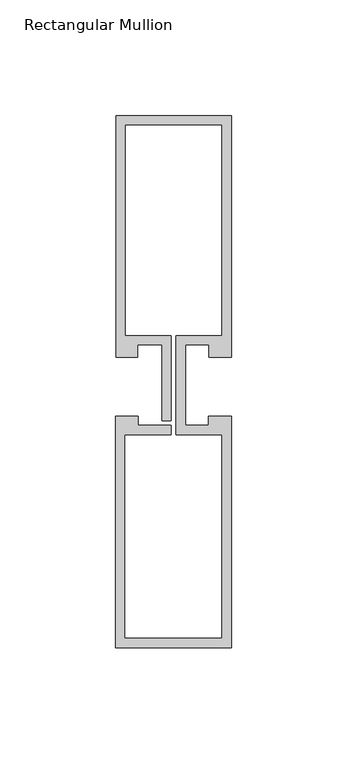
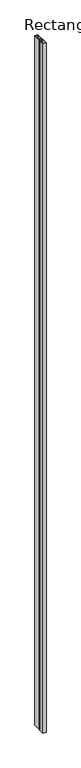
"""IFC4 building model written with IfcOpenShell, lengths in millimetres: member geometry, Rectangular Mullion : Reynaers_CW-50_Transom-Transom_104.5mm_Facecap-02D."""

from ifc_helpers import new_model, si_unit, frame, origin, place, context, project, spatial, polyline, outline, extrude, source, transform, mapped, element, save


def rectangular_mullion_6b0ed9ac(model_context):
    return source(origin(), model_context, "Body", "SweptSolid", [
        extrude(outline(polyline([(25.1995941, -12.7331291), (25.1995941, -112.7331291), (-24.994845, -112.7331291), (-24.994845, -12.7331291), (-15.2996495, -12.7331291), (-15.2996495, -16.7331291), (-0.9004059, -16.7331291), (-0.9004059, -20.7331291), (-20.994845, -20.7331291), (-20.994845, -108.7331291), (21.1995941, -108.7331291), (21.1995941, -20.7331291), (1.2995941, -20.7331291), (1.2995941, 22.1331291), (21.1995941, 22.1331291), (21.1995941, 113.2331291), (-20.8004059, 113.2331291), (-20.8004059, 22.1331291), (-0.9004059, 22.1331291), (-0.9004059, -14.7331291), (-4.9004059, -14.7331291), (-4.9004059, 18.1331291), (-15.499, 18.1331291), (-15.499, 12.7331291), (-24.8004059, 12.7331291), (-24.8004059, 117.2331291), (25.1995941, 117.2331291), (25.1995941, 12.7331291), (15.499, 12.7331291), (15.499, 18.1331291), (5.2995941, 18.1331291), (5.2995941, -16.7331291), (15.2996495, -16.7331291), (15.2996495, -12.7331291), (25.1995941, -12.7331291)])), frame((0.0, 0.0, -12000.0), z_axis=(0.0, 0.0, 1.0), x_axis=(1.0, 0.0, 0.0)), (0.0, 0.0, 1.0), 12000.0),
    ])


if __name__ == "__main__":
    model = new_model("IFC4")
    model_context = context("Model", 3, world=origin())
    ifc_project = project(units=[si_unit("LENGTHUNIT", "METRE", prefix="MILLI")], contexts=[model_context])
    site = spatial("IfcSite", under=ifc_project)
    building = spatial("IfcBuilding", under=site)
    placement = place(None, origin())
    rectangular_mullion_shape = rectangular_mullion_6b0ed9ac(model_context)
    element("IfcMember", 1, ObjectType="Rectangular Mullion : Reynaers_CW-50_Transom-Transom_104.5mm_Facecap-02D", at=placement, inside=building, context=model_context, shape_type="MappedRepresentation", body=[
        mapped(rectangular_mullion_shape, transform((0.0, 0.0, 0.0), x_axis=(1.0, 0.0, 0.0), y_axis=(0.0, 1.0, 0.0), z_axis=(0.0, 0.0, 1.0))),
    ])
    save(model, "model.ifc")
